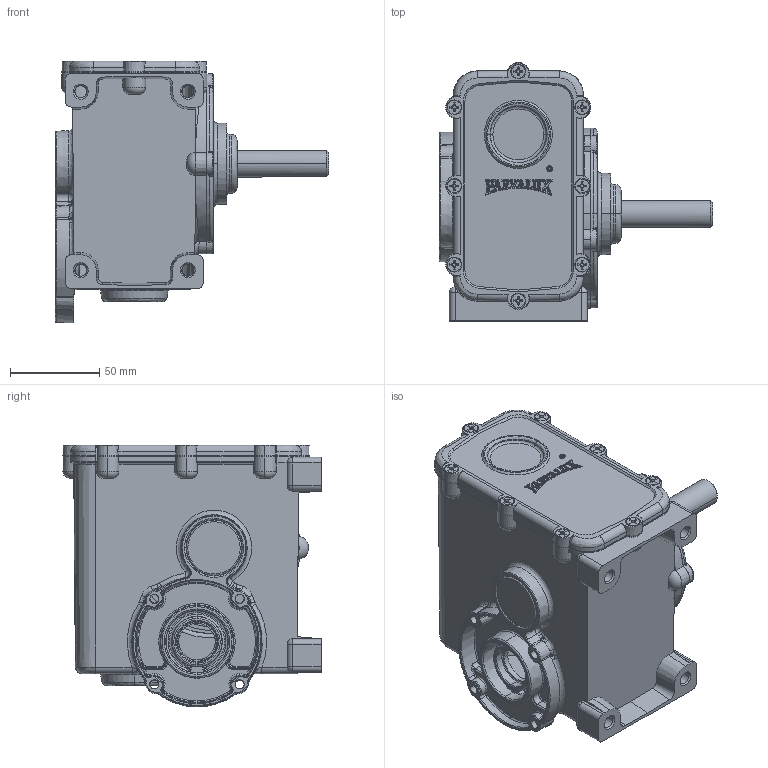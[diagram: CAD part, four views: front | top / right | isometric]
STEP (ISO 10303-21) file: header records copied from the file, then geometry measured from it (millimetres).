
FILE_DESCRIPTION (( 'STEP AP214' ), '1' );
FILE_NAME ('LIW_render model.STEP', '2023-10-24T09:41:23', ( '' ), ( '' ), 'SwSTEP 2.0', 'SolidWorks 2023', '' );
FILE_SCHEMA (( 'AUTOMOTIVE_DESIGN' ));
Length unit declared in the file: millimetre
Products named in the file (1): LIW_render model
Bounding box: 152.98 x 144.64 x 146.61 mm (x, y, z)
Surface area: 115984.8 mm2 (no closed solid volume)
Topology: 0 solids, 31 shells, 1255 faces, 4085 edges, 2791 vertices
Faces by surface type: plane 464, cone 360, bspline 242, cylinder 133, torus 56
Entity records: 76007 total; most frequent: CARTESIAN_POINT 28773, ORIENTED_EDGE 7109, DIRECTION 6170, EDGE_CURVE 4078, VERTEX_POINT 2791, AXIS2_PLACEMENT_3D 2086, VECTOR 1998, LINE 1998
